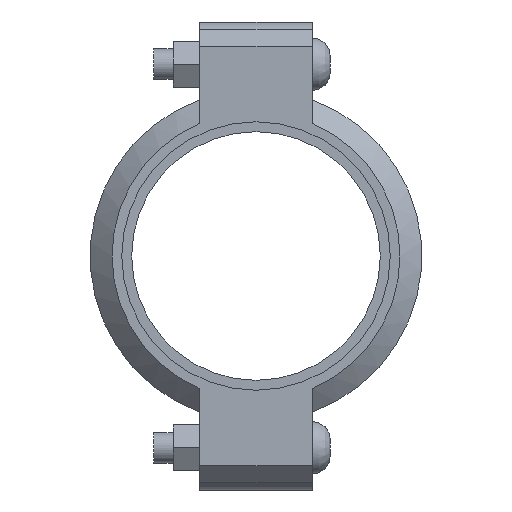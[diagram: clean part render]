
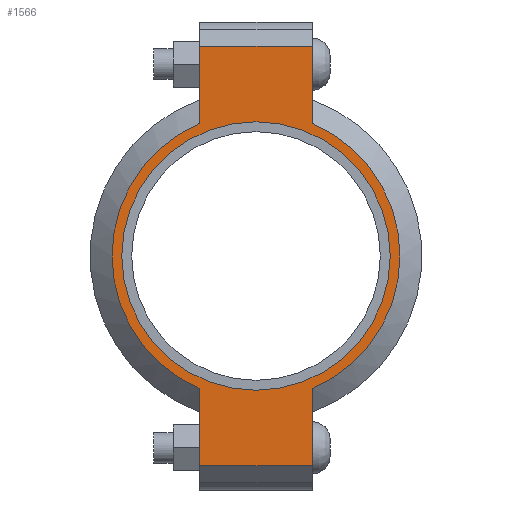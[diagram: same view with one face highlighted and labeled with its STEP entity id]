
A CAD part, left-side view. The second image highlights one B-rep face of the part: STEP entity #1566.
In plain terms, the highlighted planar face has unit normal (-1, 0, 0) as drawn and (0, 0, 1) by its records, which use the part's own axes.
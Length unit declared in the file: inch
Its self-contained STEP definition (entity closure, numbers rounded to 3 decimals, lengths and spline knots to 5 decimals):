
#190=LINE('',#2742,#283);
#198=LINE('',#2778,#291);
#205=LINE('',#2799,#298);
#214=LINE('',#2831,#307);
#215=LINE('',#2835,#308);
#216=LINE('',#2837,#309);
#283=VECTOR('',#2234,0.3937);
#291=VECTOR('',#2250,0.3937);
#298=VECTOR('',#2269,0.3937);
#307=VECTOR('',#2294,0.3937);
#308=VECTOR('',#2299,0.3937);
#309=VECTOR('',#2300,0.3937);
#365=FACE_BOUND('',#543,.T.);
#437=FACE_OUTER_BOUND('',#542,.T.);
#542=EDGE_LOOP('',(#1307,#1308,#1309,#1310,#1311,#1312,#1313,#1314));
#543=EDGE_LOOP('',(#1315));
#615=CIRCLE('',#1794,2.75);
#641=CIRCLE('',#1853,2.95);
#642=CIRCLE('',#1854,2.95);
#707=VERTEX_POINT('',#2558);
#750=VERTEX_POINT('',#2739);
#751=VERTEX_POINT('',#2741);
#762=VERTEX_POINT('',#2773);
#763=VERTEX_POINT('',#2777);
#770=VERTEX_POINT('',#2796);
#771=VERTEX_POINT('',#2798);
#781=VERTEX_POINT('',#2834);
#782=VERTEX_POINT('',#2836);
#863=EDGE_CURVE('',#707,#707,#615,.T.);
#924=EDGE_CURVE('',#751,#750,#190,.T.);
#938=EDGE_CURVE('',#763,#762,#198,.T.);
#948=EDGE_CURVE('',#771,#770,#205,.T.);
#963=EDGE_CURVE('',#763,#750,#214,.T.);
#964=EDGE_CURVE('',#762,#771,#641,.T.);
#965=EDGE_CURVE('',#781,#770,#215,.T.);
#966=EDGE_CURVE('',#781,#782,#216,.T.);
#967=EDGE_CURVE('',#782,#751,#642,.T.);
#1307=ORIENTED_EDGE('',*,*,#963,.F.);
#1308=ORIENTED_EDGE('',*,*,#938,.T.);
#1309=ORIENTED_EDGE('',*,*,#964,.T.);
#1310=ORIENTED_EDGE('',*,*,#948,.T.);
#1311=ORIENTED_EDGE('',*,*,#965,.F.);
#1312=ORIENTED_EDGE('',*,*,#966,.T.);
#1313=ORIENTED_EDGE('',*,*,#967,.T.);
#1314=ORIENTED_EDGE('',*,*,#924,.T.);
#1315=ORIENTED_EDGE('',*,*,#863,.T.);
#1408=PLANE('',#1852);
#1566=ADVANCED_FACE('',(#437,#365),#1408,.T.);
#1794=AXIS2_PLACEMENT_3D('',#2560,#2110,#2111);
#1852=AXIS2_PLACEMENT_3D('',#2832,#2295,#2296);
#1853=AXIS2_PLACEMENT_3D('',#2833,#2297,#2298);
#1854=AXIS2_PLACEMENT_3D('',#2838,#2301,#2302);
#2110=DIRECTION('center_axis',(0.,0.,-1.));
#2111=DIRECTION('ref_axis',(1.,0.,0.));
#2234=DIRECTION('',(1.,0.,0.));
#2250=DIRECTION('',(-1.,0.,0.));
#2269=DIRECTION('',(-1.,0.,0.));
#2294=DIRECTION('',(0.,-1.,0.));
#2295=DIRECTION('center_axis',(0.,0.,1.));
#2296=DIRECTION('ref_axis',(-1.,0.,0.));
#2297=DIRECTION('center_axis',(0.,0.,1.));
#2298=DIRECTION('ref_axis',(1.,0.,0.));
#2299=DIRECTION('',(0.,1.,0.));
#2300=DIRECTION('',(1.,0.,0.));
#2301=DIRECTION('center_axis',(0.,0.,1.));
#2302=DIRECTION('ref_axis',(1.,0.,0.));
#2558=CARTESIAN_POINT('',(-2.75,0.,1.065));
#2560=CARTESIAN_POINT('Origin',(0.,0.,1.065));
#2739=CARTESIAN_POINT('',(4.295,-1.15,1.065));
#2741=CARTESIAN_POINT('',(2.71662,-1.15,1.065));
#2742=CARTESIAN_POINT('',(4.795,-1.15,1.065));
#2773=CARTESIAN_POINT('',(2.71662,1.15,1.065));
#2777=CARTESIAN_POINT('',(4.295,1.15,1.065));
#2778=CARTESIAN_POINT('',(-4.795,1.15,1.065));
#2796=CARTESIAN_POINT('',(-4.295,1.15,1.065));
#2798=CARTESIAN_POINT('',(-2.71662,1.15,1.065));
#2799=CARTESIAN_POINT('',(-4.795,1.15,1.065));
#2831=CARTESIAN_POINT('',(4.295,-0.575,1.065));
#2832=CARTESIAN_POINT('Origin',(0.,0.,
1.065));
#2833=CARTESIAN_POINT('Origin',(0.,0.,1.065));
#2834=CARTESIAN_POINT('',(-4.295,-1.15,1.065));
#2835=CARTESIAN_POINT('',(-4.295,0.575,1.065));
#2836=CARTESIAN_POINT('',(-2.71662,-1.15,1.065));
#2837=CARTESIAN_POINT('',(4.795,-1.15,1.065));
#2838=CARTESIAN_POINT('Origin',(0.,0.,1.065));
